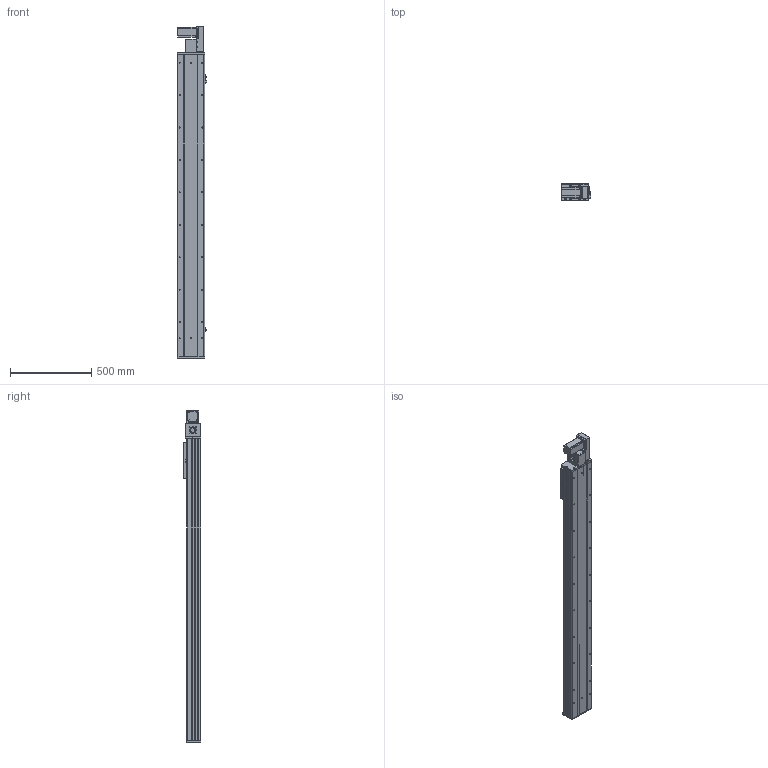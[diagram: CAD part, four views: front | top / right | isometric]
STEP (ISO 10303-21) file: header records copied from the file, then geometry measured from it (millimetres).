
FILE_DESCRIPTION (( 'STEP AP203' ), '1' );
FILE_NAME ('Y170CB-D105-S1550-BR-P400W.STEP', '2020-02-19T09:24:28', ( '微软用户' ), ( '微软中国' ), 'SwSTEP 2.0', 'SolidWorks 2017', '' );
FILE_SCHEMA (( 'CONFIG_CONTROL_DESIGN' ));
Length unit declared in the file: millimetre
Products named in the file (17): san松下电机400不带刹车----; 70C--詩湍揤踡え-; 70B喘謫眊----; B-源倛裔啣; 17B-耜蚾蟀諉啣----; 0B-萇儂楊擘啣; Y70俋欶BR----; 70CB-掛极-; --70CB --喘謫眊楊擘啣-; 70CB-耜裔啣-; 70CB--耜裔; 70C-雄赽釱-奻-; 0C--雄赽釱俋欶-170; 70CB-詩湍--; Y100-135俋离換覜ん--; Y170CB-陔俋离換覜結え---; Y170CB-D105-S1550-BR-P400W
Assembly tree (20 placements, depth 2):
  Y170CB-D105-S1550-BR-P400W
    70B喘謫眊----
    B-源倛裔啣
    17B-耜蚾蟀諉啣----
    0B-萇儂楊擘啣
    san松下电机400不带刹车----
    Y70俋欶BR----
    70CB-掛极-
    --70CB --喘謫眊楊擘啣-
    70CB-耜裔啣-  x2
    70C--詩湍揤踡え-  x2
    70CB--耜裔
    70C-雄赽釱-奻-
    0C--雄赽釱俋欶-170
    70CB-詩湍--
    Y100-135俋离換覜ん--  x3
    Y170CB-陔俋离換覜結え---
Bounding box: 183.5 x 107 x 2047 mm (x, y, z)
Volume: 8697604.8 mm3; surface area: 3122299.7 mm2
Topology: 20 solids, 20 shells, 1017 faces, 2729 edges, 1810 vertices
Faces by surface type: cylinder 531, plane 462, cone 24
Entity records: 32335 total; most frequent: CARTESIAN_POINT 5961, DIRECTION 5260, ORIENTED_EDGE 4940, EDGE_CURVE 2470, AXIS2_PLACEMENT_3D 1925, VERTEX_POINT 1640, LINE 1410, VECTOR 1410
